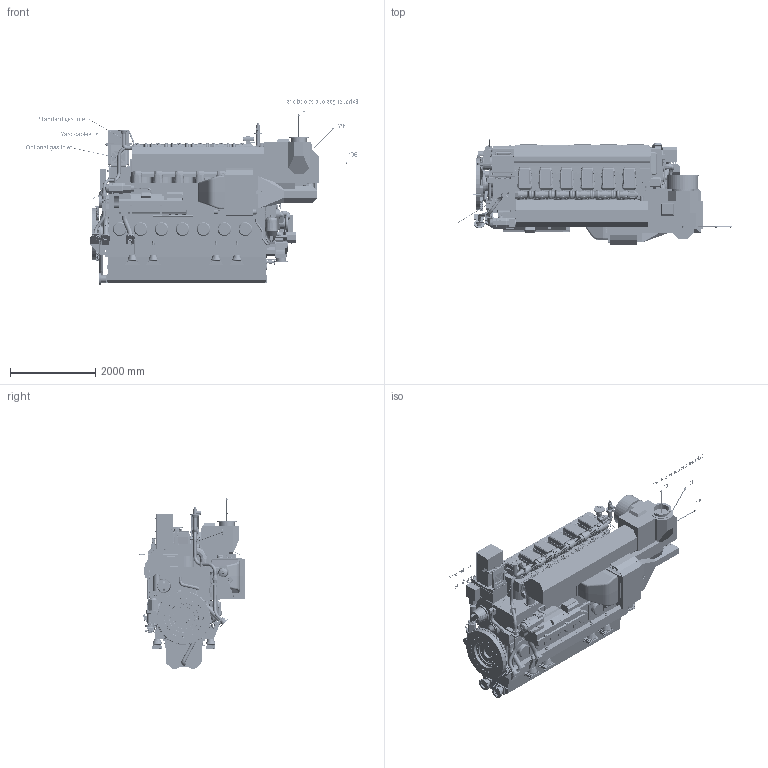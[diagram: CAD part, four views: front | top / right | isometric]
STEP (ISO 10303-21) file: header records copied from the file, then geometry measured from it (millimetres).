
FILE_DESCRIPTION(/* description */ (''),/* implementation_level */ '2;1');
FILE_NAME(/* name */ 'DAAF380478_B.stp',/* time_stamp */ '2021-12-10T12:30:02+02:00',/* author */ (''),/* organization */ (''),/* preprocessor_version */ 'ST-DEVELOPER v16.7',/* originating_system */ 'SIEMENS PLM Software NX 1915',/* authorisation */ '');
FILE_SCHEMA (('AUTOMOTIVE_DESIGN { 1 0 10303 214 3 1 1 1 }'));
Products named in the file (82): 001240134--_STEEL PLATE; 001240134-A_STEEL PLATE; PAAF635310--_DAAE049274 Vulkan DMR T90; 0031B006100-K_ROUND NUT_MODEL; PAAF093490--_LUBE OIL PIPES; PAAF111190-A_LUBE OIL PIPES; PAAF074461--_DRY SUMP; PAAF559689--_COVER; PAAF906209--_CYLINDER HEAD COVER; PAAF671497--_AIR VENT PIPE; PAAF087111--_LEAK FUEL SYSTEM; PAAF906214--_ELECTRICAL EQUIPMENT; PAAF776393--_AIR INLET PIPE; PAAF271372--_MOTOR; PABA065852--_Gas feed pipe from roof; PABA142427--_Control air system WG_BP TCF; PABA086611--_Covers for charge air pipe A145 FE; PAAF906213--_NITROGEN GAS PIPE; PAAF068492--_AIR VENT SYSTEM; PAAF555086--_PUMP COVER; PAAF975683--_Gas feed pipe double wall; PAAF087136--_LUBRICATING OIL PIPES; PAAF895907--_COVERS; PABA065492--_Charge air system; PAAF895909--_COVERS; PAAF291916--_INTERMEDIATE GEAR; PAAF906211--_SIDE COVER; PAAF078241--_COVER; PAAF243744--_LUBE OIL MODULE; PAAF243623--_FUEL PIPES; PAAF063630--_ENGINE BLOCK; PAAF683775--_AIR INLET BOX; PABA036848--_Cylinder heads multiducts cylinder liner; PAAF087122--_LEAK FUEL PIPES; PAAF078074--_TURNING DEVICE; PAAF909496--_ELECTRICAL EQUIPMENT; PAAF555902--_PILOT FUEL LINE; PAAF093585--_STARTING AIR PIPES; PAAF064319--_COVERS; PABA311381--_Governor driver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
Assembly tree (119 placements, depth 4):
  DAAF380478_B-Outline drawing
    PABA319996--_3D tags
    PABA320172--_Turbo options
    PABA103407--_Production drawing
    PABA323391--_W6L34DFC-TCF-DRY_MODEL
      PAAF087114--_LEAK FUEL SYSTEM
      PAAF920689--_AIR VENT SYSTEM
      PABA066964--_Double wall gas vent system
      PAAF078619--_LT-WATER PIPES
      PAAF721110--_DRAIN PIPE
      PAAF906204--_SHUT-DOWN MECHANISM
      PABA135981--_Electrical equipment for lube oil module_ TCFE
      PAAF675626--_OIL MIST DETECTOR
      PAAF247485--_LUBRICATING OIL PUMP
      PAAF354712--_CLEANING DEVICE
      PABA065520--_Counter flange for HT preheating_ connection 406
      PAAF379162--_TURBOCHARGER
      PAAF078708--_ACTUATOR  x2
      PAAF074388--_END COVER
      PAAF909498--_LOCAL CONTROL PANEL
      PAAF243671--_PUMP COVER
      PAAF078621--_LT-WATER PIPES
      PAAF555085--_PUMP COVER
      PAAF247471--_OIL PIPE
      PAAF238216--_CRANKSHAFT
      PAAF975926--_main gas admission valve  x6
      PAAF270351--_EQUIPMENT
      PAAF093447--_SEPARATOR CONNECTIONS
      PAAF093819--_WATER CONNECTION
      PAAF681232--_AIR INLET PIPE
      PAAF397145--_COVERS
      PABA147579--_Turbocharger Bracket A145_ free end
      PAAF407516--_INSULATING BOX
      PAAF087082--_A_LEAK FUEL PIPES
      PAAF975946--_gas pipe between cylinders  x5
      PABA089633--_Gas vent system connecting flange
      PAAF247479--_FRAME
      PAAF243686--_CENTRIFUGAL FILTER
      PAAF063769--_COVERS
      PABA311381--_Governor driver
      PAAF064319--_COVERS
      PAAF093585--_STARTING AIR PIPES
      PAAF555902--_PILOT FUEL LINE
      PAAF909496--_ELECTRICAL EQUIPMENT
      PAAF078074--_TURNING DEVICE
      PAAF087122--_LEAK FUEL PIPES
      PABA036848--_Cylinder heads multiducts cylinder liner
      PAAF683775--_AIR INLET BOX
      PAAF063630--_ENGINE BLOCK
      PAAF243623--_FUEL PIPES
      PAAF243744--_LUBE OIL MODULE
      PAAF078241--_COVER
      PAAF906211--_SIDE COVER
      PAAF291916--_INTERMEDIATE GEAR
      PAAF895909--_COVERS
      PABA065492--_Charge air system
      PAAF895907--_COVERS
      PAAF087136--_LUBRICATING OIL PIPES
      PAAF975683--_Gas feed pipe double wall
      PAAF555086--_PUMP COVER
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Bounding box: 7773.27 x 2468.91 x 4355.01 mm (x, y, z)
Volume: 14031672676.3 mm3; surface area: 205153656.3 mm2
Topology: 416 solids, 430 shells, 18211 faces, 45629 edges, 29414 vertices
Faces by surface type: plane 9103, cylinder 5094, bspline 1602, extrusion 893, cone 788, torus 672, sphere 56, revolution 3
Full cylindrical faces by diameter (mm): 1 x6, 3 x3, 6 x7, 6.2 x64, 6.4 x4, 7.077 x1, 8 x40, 8.5 x2, 9 x19, 9.7 x1, 10 x8, 11 x3, 11.908 x1, 12 x101, 12.3 x1, 13 x2, 13.2 x4, 13.5 x4, 14 x36, 14.5 x2, 15 x19, 15.5 x32, 15.6 x4, 15.7 x4, 16 x17, 16.2 x3, 16.376 x1, 16.7 x1, 16.8 x1, 17 x9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
Entity records: 681391 total; most frequent: CARTESIAN_POINT 286216, ORIENTED_EDGE 80432, DIRECTION 73340, EDGE_CURVE 40216, VERTEX_POINT 26916, AXIS2_PLACEMENT_3D 25040, VECTOR 23257, LINE 22364
